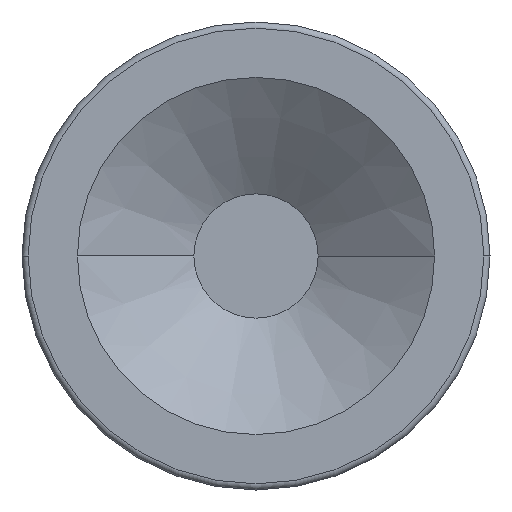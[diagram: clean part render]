
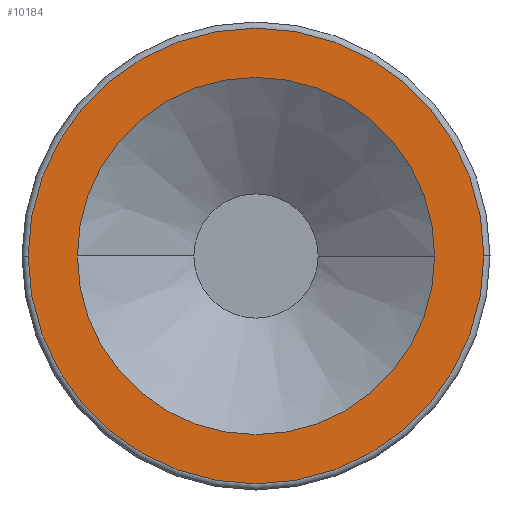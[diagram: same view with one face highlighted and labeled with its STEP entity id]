
A CAD part, front view. The second image highlights one B-rep face of the part: STEP entity #10184.
In plain terms, the highlighted planar face has unit normal (0, -1, 0).
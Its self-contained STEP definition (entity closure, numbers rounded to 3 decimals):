
#306 = PLANE ( 'NONE',  #4931 ) ;
#546 = EDGE_CURVE ( 'NONE', #14087, #9068, #3990, .T. ) ;
#866 = CARTESIAN_POINT ( 'NONE',  ( 0., -19., 0. ) ) ;
#1307 = EDGE_CURVE ( 'NONE', #9068, #14087, #13030, .T. ) ;
#2164 = CARTESIAN_POINT ( 'NONE',  ( 37., -19., 0. ) ) ;
#2476 = CARTESIAN_POINT ( 'NONE',  ( -29., -19., 0. ) ) ;
#3366 = AXIS2_PLACEMENT_3D ( 'NONE', #12201, #10731, #9236 ) ;
#3531 = VERTEX_POINT ( 'NONE', #10212 ) ;
#3777 = EDGE_CURVE ( 'NONE', #3531, #13594, #13673, .T. ) ;
#3990 = CIRCLE ( 'NONE', #10924, 37. ) ;
#4543 = ORIENTED_EDGE ( 'NONE', *, *, #546, .T. ) ;
#4931 = AXIS2_PLACEMENT_3D ( 'NONE', #13325, #11860, #10367 ) ;
#5327 = ORIENTED_EDGE ( 'NONE', *, *, #1307, .T. ) ;
#5635 = DIRECTION ( 'NONE',  ( -1., 0., 0. ) ) ;
#6101 = ORIENTED_EDGE ( 'NONE', *, *, #3777, .T. ) ;
#6461 = ORIENTED_EDGE ( 'NONE', *, *, #12088, .T. ) ;
#6978 = DIRECTION ( 'NONE',  ( -1., 0., 0. ) ) ;
#7129 = DIRECTION ( 'NONE',  ( 0., -1., 0. ) ) ;
#7578 = FACE_OUTER_BOUND ( 'NONE', #9232, .T. ) ;
#8488 = DIRECTION ( 'NONE',  ( 0., -1., 0. ) ) ;
#8828 = CARTESIAN_POINT ( 'NONE',  ( 0., -19., 0. ) ) ;
#9068 = VERTEX_POINT ( 'NONE', #2164 ) ;
#9232 = EDGE_LOOP ( 'NONE', ( #4543, #5327 ) ) ;
#9236 = DIRECTION ( 'NONE',  ( -1., 0., 0. ) ) ;
#9584 = EDGE_LOOP ( 'NONE', ( #6101, #6461 ) ) ;
#10184 = ADVANCED_FACE ( 'NONE', ( #7578, #10797 ), #306, .F. ) ;
#10212 = CARTESIAN_POINT ( 'NONE',  ( 29., -19., 0. ) ) ;
#10367 = DIRECTION ( 'NONE',  ( -1., 0., 0. ) ) ;
#10731 = DIRECTION ( 'NONE',  ( 0., 1., 0. ) ) ;
#10797 = FACE_BOUND ( 'NONE', #9584, .T. ) ;
#10905 = CIRCLE ( 'NONE', #11411, 29. ) ;
#10924 = AXIS2_PLACEMENT_3D ( 'NONE', #8828, #8488, #6978 ) ;
#11411 = AXIS2_PLACEMENT_3D ( 'NONE', #866, #13883, #12404 ) ;
#11738 = AXIS2_PLACEMENT_3D ( 'NONE', #13088, #7129, #5635 ) ;
#11860 = DIRECTION ( 'NONE',  ( 0., 1., 0. ) ) ;
#12088 = EDGE_CURVE ( 'NONE', #13594, #3531, #10905, .T. ) ;
#12201 = CARTESIAN_POINT ( 'NONE',  ( 0., -19., 0. ) ) ;
#12404 = DIRECTION ( 'NONE',  ( -1., 0., 0. ) ) ;
#13030 = CIRCLE ( 'NONE', #11738, 37. ) ;
#13088 = CARTESIAN_POINT ( 'NONE',  ( 0., -19., 0. ) ) ;
#13325 = CARTESIAN_POINT ( 'NONE',  ( 38., -19., 0. ) ) ;
#13594 = VERTEX_POINT ( 'NONE', #2476 ) ;
#13673 = CIRCLE ( 'NONE', #3366, 29. ) ;
#13883 = DIRECTION ( 'NONE',  ( 0., 1., 0. ) ) ;
#14087 = VERTEX_POINT ( 'NONE', #14100 ) ;
#14100 = CARTESIAN_POINT ( 'NONE',  ( -37., -19., 0. ) ) ;
